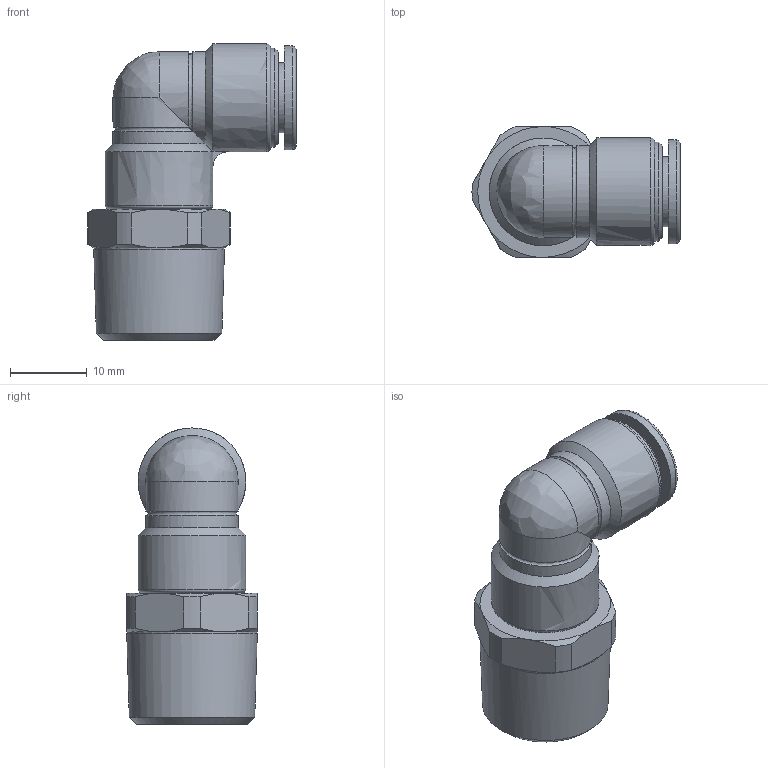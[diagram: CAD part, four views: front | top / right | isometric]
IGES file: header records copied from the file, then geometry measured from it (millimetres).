
Global section: file name: [10] FS8-03ML FS8-03MLW; native system: Autodesk Inventor 2014; preprocessor: unknown; author: kazuhiro.t; date: 20130806.164926; units: millimetre
Bounding box: 27.05 x 17 x 38.5 mm (x, y, z)
Volume: 7385.2 mm3; surface area: 3184 mm2
Topology: 1 solids, 1 shells, 60 faces, 140 edges, 85 vertices
Faces by surface type: bspline 60
